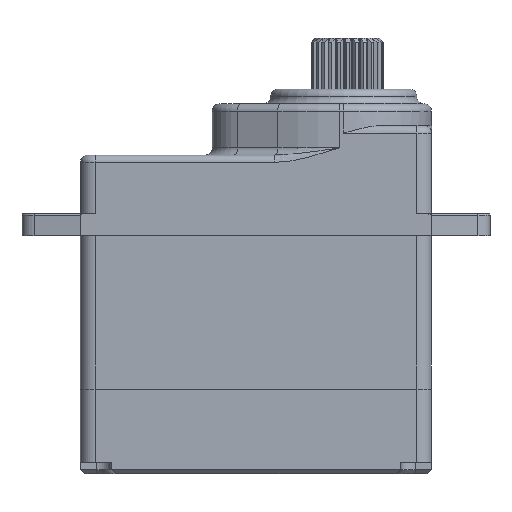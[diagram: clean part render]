
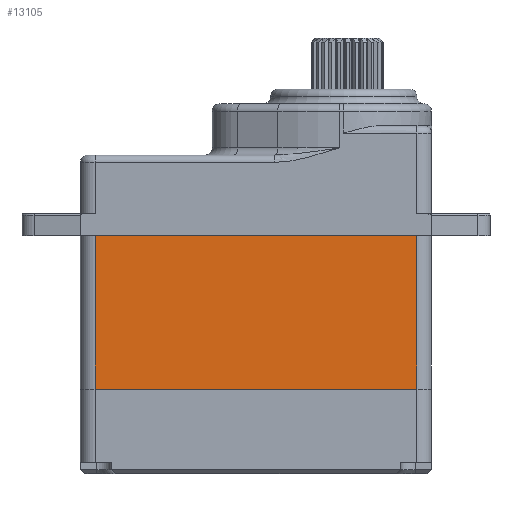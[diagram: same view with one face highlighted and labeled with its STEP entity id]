
A CAD part, front view. The second image highlights one B-rep face of the part: STEP entity #13105.
In plain terms, the highlighted planar face has unit normal (0, -1, 0).
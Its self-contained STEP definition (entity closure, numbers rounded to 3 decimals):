
#87 = CARTESIAN_POINT ( 'NONE',  ( -57.239, -7.29, 4.25 ) ) ;
#1868 = DIRECTION ( 'NONE',  ( 1., 0., 0. ) ) ;
#2078 = CARTESIAN_POINT ( 'NONE',  ( -57.239, -7.29, 5.25 ) ) ;
#2540 = FACE_OUTER_BOUND ( 'NONE', #9473, .T. ) ;
#2932 = DIRECTION ( 'NONE',  ( 0., 0., 1. ) ) ;
#2938 = DIRECTION ( 'NONE',  ( 0., 0., -1. ) ) ;
#3090 = ORIENTED_EDGE ( 'NONE', *, *, #14681, .T. ) ;
#3694 = EDGE_CURVE ( 'NONE', #5421, #11376, #8991, .T. ) ;
#4009 = VERTEX_POINT ( 'NONE', #18518 ) ;
#4155 = VECTOR ( 'NONE', #13811, 1000. ) ;
#4340 = CARTESIAN_POINT ( 'NONE',  ( -80.239, -7.29, -6.25 ) ) ;
#4361 = LINE ( 'NONE', #2078, #4155 ) ;
#5421 = VERTEX_POINT ( 'NONE', #18936 ) ;
#5674 = DIRECTION ( 'NONE',  ( 0., 1., 0. ) ) ;
#6026 = VECTOR ( 'NONE', #2938, 1000. ) ;
#7038 = VECTOR ( 'NONE', #1868, 1000. ) ;
#7070 = ORIENTED_EDGE ( 'NONE', *, *, #14006, .F. ) ;
#7632 = EDGE_CURVE ( 'NONE', #11376, #18610, #4361, .T. ) ;
#8947 = CARTESIAN_POINT ( 'NONE',  ( -80.239, -7.29, 4.25 ) ) ;
#8991 = LINE ( 'NONE', #4340, #11947 ) ;
#9473 = EDGE_LOOP ( 'NONE', ( #12003, #10460, #7070, #3090 ) ) ;
#9934 = AXIS2_PLACEMENT_3D ( 'NONE', #11584, #5674, #2932 ) ;
#9956 = LINE ( 'NONE', #11461, #6026 ) ;
#10321 = DIRECTION ( 'NONE',  ( 1., 0., 0. ) ) ;
#10460 = ORIENTED_EDGE ( 'NONE', *, *, #7632, .T. ) ;
#11376 = VERTEX_POINT ( 'NONE', #15816 ) ;
#11461 = CARTESIAN_POINT ( 'NONE',  ( -79.239, -7.29, 5.25 ) ) ;
#11584 = CARTESIAN_POINT ( 'NONE',  ( -80.239, -7.29, 5.25 ) ) ;
#11947 = VECTOR ( 'NONE', #10321, 1000. ) ;
#12003 = ORIENTED_EDGE ( 'NONE', *, *, #3694, .T. ) ;
#12319 = LINE ( 'NONE', #8947, #7038 ) ;
#13105 = ADVANCED_FACE ( 'NONE', ( #2540 ), #17408, .F. ) ;
#13811 = DIRECTION ( 'NONE',  ( 0., 0., 1. ) ) ;
#14006 = EDGE_CURVE ( 'NONE', #4009, #18610, #12319, .T. ) ;
#14681 = EDGE_CURVE ( 'NONE', #4009, #5421, #9956, .T. ) ;
#15816 = CARTESIAN_POINT ( 'NONE',  ( -57.239, -7.29, -6.25 ) ) ;
#17408 = PLANE ( 'NONE',  #9934 ) ;
#18518 = CARTESIAN_POINT ( 'NONE',  ( -79.239, -7.29, 4.25 ) ) ;
#18610 = VERTEX_POINT ( 'NONE', #87 ) ;
#18936 = CARTESIAN_POINT ( 'NONE',  ( -79.239, -7.29, -6.25 ) ) ;
